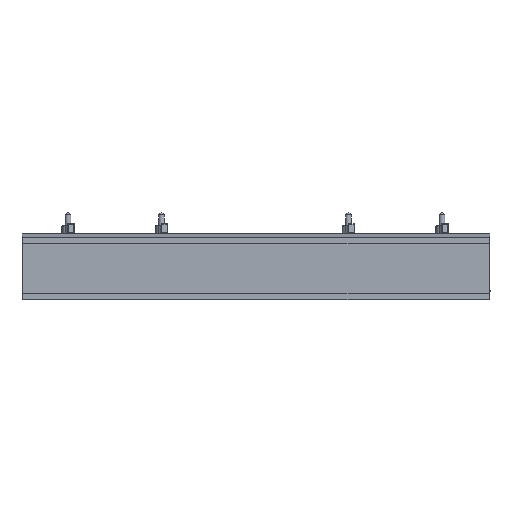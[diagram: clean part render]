
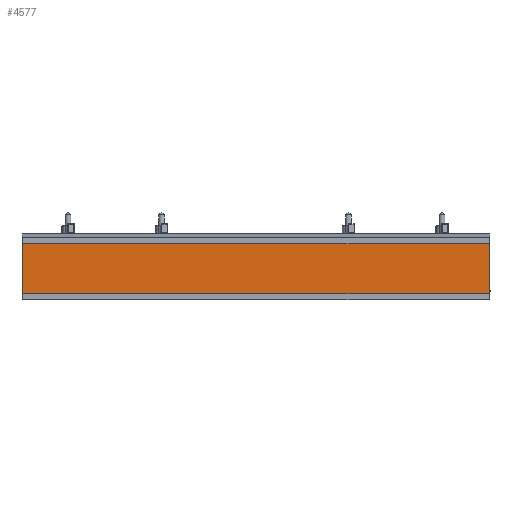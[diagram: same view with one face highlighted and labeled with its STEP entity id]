
A CAD part, top view. The second image highlights one B-rep face of the part: STEP entity #4577.
In plain terms, the highlighted planar face has unit normal (0, 0, 1) as drawn and (0, 1, 0) by its records, which use the part's own axes.
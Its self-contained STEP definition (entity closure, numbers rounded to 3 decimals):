
#2357=DIRECTION('',(-1.,0.,0.));
#2358=VECTOR('',#2357,106.9);
#2359=CARTESIAN_POINT('',(53.45,133.83,-498.75));
#2360=LINE('',#2359,#2358);
#3033=DIRECTION('',(-1.,0.,0.));
#3034=VECTOR('',#3033,106.9);
#3035=CARTESIAN_POINT('',(53.45,133.83,498.75));
#3036=LINE('',#3035,#3034);
#3057=DIRECTION('',(0.,0.,1.));
#3058=VECTOR('',#3057,997.5);
#3059=CARTESIAN_POINT('',(-53.45,133.83,-498.75));
#3060=LINE('',#3059,#3058);
#3061=DIRECTION('',(0.,0.,1.));
#3062=VECTOR('',#3061,997.5);
#3063=CARTESIAN_POINT('',(53.45,133.83,-498.75));
#3064=LINE('',#3063,#3062);
#3309=CARTESIAN_POINT('',(-53.45,133.83,-498.75));
#3310=CARTESIAN_POINT('',(-53.45,133.83,498.75));
#3311=VERTEX_POINT('',#3309);
#3312=VERTEX_POINT('',#3310);
#3313=CARTESIAN_POINT('',(53.45,133.83,-498.75));
#3314=CARTESIAN_POINT('',(53.45,133.83,498.75));
#3315=VERTEX_POINT('',#3313);
#3316=VERTEX_POINT('',#3314);
#4565=CARTESIAN_POINT('',(65.95,133.83,-498.75));
#4566=DIRECTION('',(0.,1.,0.));
#4567=DIRECTION('',(-1.,0.,0.));
#4568=AXIS2_PLACEMENT_3D('',#4565,#4566,#4567);
#4569=PLANE('',#4568);
#4570=ORIENTED_EDGE('',*,*,#4557,.F.);
#4571=ORIENTED_EDGE('',*,*,#3629,.F.);
#4573=ORIENTED_EDGE('',*,*,#4572,.T.);
#4574=ORIENTED_EDGE('',*,*,#4524,.T.);
#4575=EDGE_LOOP('',(#4570,#4571,#4573,#4574));
#4576=FACE_OUTER_BOUND('',#4575,.F.);
#3629=EDGE_CURVE('',#3315,#3311,#2360,.T.);
#4524=EDGE_CURVE('',#3316,#3312,#3036,.T.);
#4557=EDGE_CURVE('',#3311,#3312,#3060,.T.);
#4572=EDGE_CURVE('',#3315,#3316,#3064,.T.);
#4577=ADVANCED_FACE('',(#4576),#4569,.T.);
